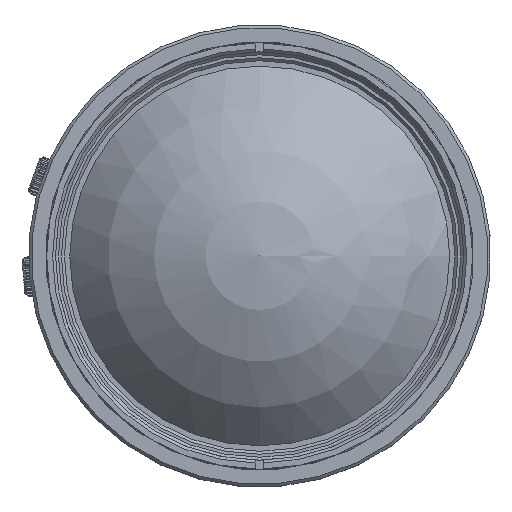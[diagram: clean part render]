
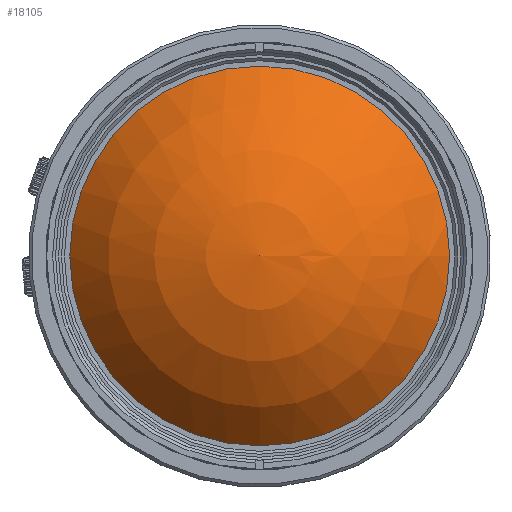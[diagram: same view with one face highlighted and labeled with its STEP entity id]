
A CAD part, top view. The second image highlights one B-rep face of the part: STEP entity #18105.
In plain terms, the highlighted spherical face has radius 24.5 mm.
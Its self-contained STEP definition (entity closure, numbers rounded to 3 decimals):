
#37=SPHERICAL_SURFACE('',#71468,24.5);
#18105=ADVANCED_FACE('',(#24570),#37,.T.);
#24570=FACE_OUTER_BOUND('',#28395,.T.);
#28395=EDGE_LOOP('',(#48427));
#48427=ORIENTED_EDGE('',*,*,#64874,.F.);
#54942=VERTEX_POINT('',#173815);
#64874=EDGE_CURVE('',#54942,#54942,#65680,.T.);
#65680=CIRCLE('',#71214,19.3);
#71214=AXIS2_PLACEMENT_3D('',#173814,#86262,#86263);
#71468=AXIS2_PLACEMENT_3D('',#181448,#86820,#86821);
#86262=DIRECTION('',(0.,0.,-1.));
#86263=DIRECTION('',(0.,1.,0.));
#86820=DIRECTION('',(0.,0.,-1.));
#86821=DIRECTION('',(1.,0.,0.));
#173814=CARTESIAN_POINT('',(-0.001,-0.001,45.83));
#173815=CARTESIAN_POINT('',(-0.001,19.299,45.83));
#181448=CARTESIAN_POINT('',(-0.001,-0.001,30.739));
